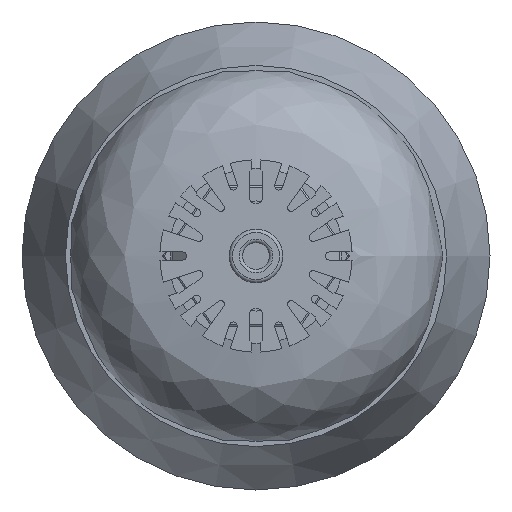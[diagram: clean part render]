
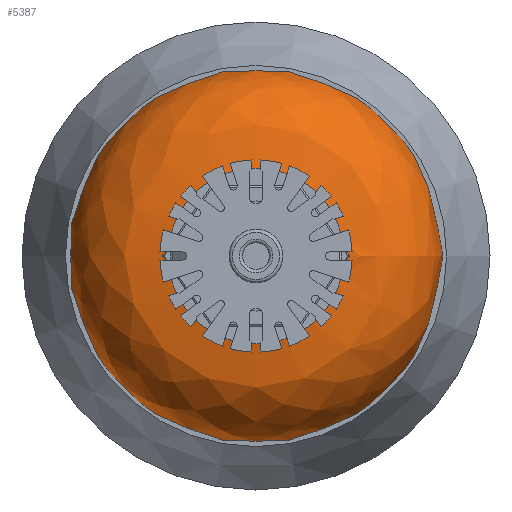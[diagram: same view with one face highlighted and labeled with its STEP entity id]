
A CAD part, front view. The second image highlights one B-rep face of the part: STEP entity #5387.
In plain terms, the highlighted free-form (B-spline) face has degree [2, 2] with [5, 9] control points.
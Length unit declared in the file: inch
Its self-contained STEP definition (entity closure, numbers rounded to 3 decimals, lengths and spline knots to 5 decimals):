
#271=(
BOUNDED_SURFACE()
B_SPLINE_SURFACE(2,2,((#7852,#7853,#7854,#7855,#7856,#7857,#7858,#7859,
#7860),(#7861,#7862,#7863,#7864,#7865,#7866,#7867,#7868,#7869),(#7870,#7871,
#7872,#7873,#7874,#7875,#7876,#7877,#7878),(#7879,#7880,#7881,#7882,#7883,
#7884,#7885,#7886,#7887),(#7888,#7889,#7890,#7891,#7892,#7893,#7894,#7895,
#7896)),.UNSPECIFIED.,.F.,.T.,.F.)
B_SPLINE_SURFACE_WITH_KNOTS((3,2,3),(3,2,2,2,3),(-0.26503,0.67035,
1.60572),(-3.14159,-1.5708,0.,1.5708,
3.14159),.UNSPECIFIED.)
GEOMETRIC_REPRESENTATION_ITEM()
RATIONAL_B_SPLINE_SURFACE(((1.,0.707,1.,0.707,1.,
0.707,1.,0.707,1.),(0.893,0.631,
0.893,0.631,0.893,0.631,
0.893,0.631,0.893),(1.,0.707,
1.,0.707,1.,0.707,1.,0.707,1.),(0.893,
0.631,0.893,0.631,0.893,
0.631,0.893,0.631,0.893),
(1.,0.707,1.,0.707,1.,0.707,1.,0.707,
1.)))
REPRESENTATION_ITEM('')
SURFACE()
);
#393=FACE_OUTER_BOUND('',#703,.T.);
#703=EDGE_LOOP('',(#3372,#3373,#3374,#3375,#3376,#3377));
#1734=CIRCLE('',#5756,1.375);
#1735=CIRCLE('',#5757,1.375);
#1736=CIRCLE('',#5758,0.6575);
#1737=CIRCLE('',#5759,0.6575);
#1738=CIRCLE('',#5760,0.7175);
#2041=VERTEX_POINT('',#7847);
#2042=VERTEX_POINT('',#7848);
#2043=VERTEX_POINT('',#7897);
#2044=VERTEX_POINT('',#7898);
#2554=EDGE_CURVE('',#2041,#2042,#1734,.T.);
#2555=EDGE_CURVE('',#2042,#2041,#1735,.T.);
#2557=EDGE_CURVE('',#2043,#2044,#1736,.T.);
#2558=EDGE_CURVE('',#2044,#2043,#1737,.T.);
#2559=EDGE_CURVE('',#2044,#2042,#1738,.T.);
#3372=ORIENTED_EDGE('',*,*,#2557,.F.);
#3373=ORIENTED_EDGE('',*,*,#2558,.F.);
#3374=ORIENTED_EDGE('',*,*,#2559,.T.);
#3375=ORIENTED_EDGE('',*,*,#2555,.T.);
#3376=ORIENTED_EDGE('',*,*,#2554,.T.);
#3377=ORIENTED_EDGE('',*,*,#2559,.F.);
#5387=ADVANCED_FACE('',(#393),#271,.F.);
#5756=AXIS2_PLACEMENT_3D('',#7849,#6345,#6346);
#5757=AXIS2_PLACEMENT_3D('',#7850,#6347,#6348);
#5758=AXIS2_PLACEMENT_3D('',#7899,#6350,#6351);
#5759=AXIS2_PLACEMENT_3D('',#7900,#6352,#6353);
#5760=AXIS2_PLACEMENT_3D('',#7901,#6354,#6355);
#6345=DIRECTION('center_axis',(0.,-1.,0.));
#6346=DIRECTION('ref_axis',(1.,0.,0.));
#6347=DIRECTION('center_axis',(0.,-1.,0.));
#6348=DIRECTION('ref_axis',(1.,0.,0.));
#6350=DIRECTION('center_axis',(0.,-1.,0.));
#6351=DIRECTION('ref_axis',(1.,0.,0.));
#6352=DIRECTION('center_axis',(0.,-1.,0.));
#6353=DIRECTION('ref_axis',(1.,0.,0.));
#6354=DIRECTION('center_axis',(0.,0.,
1.));
#6355=DIRECTION('ref_axis',(1.,0.,0.));
#7847=CARTESIAN_POINT('',(-1.375,2.405,0.));
#7848=CARTESIAN_POINT('',(1.375,2.405,0.));
#7849=CARTESIAN_POINT('Origin',(0.,2.405,0.));
#7850=CARTESIAN_POINT('Origin',(0.,2.405,0.));
#7852=CARTESIAN_POINT('Ctrl Pts',(1.375,2.405,0.));
#7853=CARTESIAN_POINT('Ctrl Pts',(1.375,2.405,1.375));
#7854=CARTESIAN_POINT('Ctrl Pts',(0.,2.405,1.375));
#7855=CARTESIAN_POINT('Ctrl Pts',(-1.375,2.405,1.375));
#7856=CARTESIAN_POINT('Ctrl Pts',(-1.375,2.405,0.));
#7857=CARTESIAN_POINT('Ctrl Pts',(-1.375,2.405,-1.375));
#7858=CARTESIAN_POINT('Ctrl Pts',(0.,2.405,-1.375));
#7859=CARTESIAN_POINT('Ctrl Pts',(1.375,2.405,-1.375));
#7860=CARTESIAN_POINT('Ctrl Pts',(1.375,2.405,0.));
#7861=CARTESIAN_POINT('Ctrl Pts',(1.46992,2.05527,0.));
#7862=CARTESIAN_POINT('Ctrl Pts',(1.46992,2.05527,1.46992));
#7863=CARTESIAN_POINT('Ctrl Pts',(0.,2.05527,1.46992));
#7864=CARTESIAN_POINT('Ctrl Pts',(-1.46992,2.05527,1.46992));
#7865=CARTESIAN_POINT('Ctrl Pts',(-1.46992,2.05527,0.));
#7866=CARTESIAN_POINT('Ctrl Pts',(-1.46992,2.05527,-1.46992));
#7867=CARTESIAN_POINT('Ctrl Pts',(0.,2.05527,-1.46992));
#7868=CARTESIAN_POINT('Ctrl Pts',(1.46992,2.05527,-1.46992));
#7869=CARTESIAN_POINT('Ctrl Pts',(1.46992,2.05527,0.));
#7870=CARTESIAN_POINT('Ctrl Pts',(1.24479,1.77131,0.));
#7871=CARTESIAN_POINT('Ctrl Pts',(1.24479,1.77131,1.24479));
#7872=CARTESIAN_POINT('Ctrl Pts',(0.,1.77131,
1.24479));
#7873=CARTESIAN_POINT('Ctrl Pts',(-1.24479,1.77131,1.24479));
#7874=CARTESIAN_POINT('Ctrl Pts',(-1.24479,1.77131,0.));
#7875=CARTESIAN_POINT('Ctrl Pts',(-1.24479,1.77131,-1.24479));
#7876=CARTESIAN_POINT('Ctrl Pts',(0.,1.77131,
-1.24479));
#7877=CARTESIAN_POINT('Ctrl Pts',(1.24479,1.77131,-1.24479));
#7878=CARTESIAN_POINT('Ctrl Pts',(1.24479,1.77131,0.));
#7879=CARTESIAN_POINT('Ctrl Pts',(1.01966,1.48735,0.));
#7880=CARTESIAN_POINT('Ctrl Pts',(1.01966,1.48735,1.01966));
#7881=CARTESIAN_POINT('Ctrl Pts',(0.,1.48735,
1.01966));
#7882=CARTESIAN_POINT('Ctrl Pts',(-1.01966,1.48735,1.01966));
#7883=CARTESIAN_POINT('Ctrl Pts',(-1.01966,1.48735,0.));
#7884=CARTESIAN_POINT('Ctrl Pts',(-1.01966,1.48735,-1.01966));
#7885=CARTESIAN_POINT('Ctrl Pts',(0.,1.48735,
-1.01966));
#7886=CARTESIAN_POINT('Ctrl Pts',(1.01966,1.48735,-1.01966));
#7887=CARTESIAN_POINT('Ctrl Pts',(1.01966,1.48735,0.));
#7888=CARTESIAN_POINT('Ctrl Pts',(0.6575,1.5,0.));
#7889=CARTESIAN_POINT('Ctrl Pts',(0.6575,1.5,0.6575));
#7890=CARTESIAN_POINT('Ctrl Pts',(0.,1.5,0.6575));
#7891=CARTESIAN_POINT('Ctrl Pts',(-0.6575,1.5,0.6575));
#7892=CARTESIAN_POINT('Ctrl Pts',(-0.6575,1.5,0.));
#7893=CARTESIAN_POINT('Ctrl Pts',(-0.6575,1.5,-0.6575));
#7894=CARTESIAN_POINT('Ctrl Pts',(0.,1.5,-0.6575));
#7895=CARTESIAN_POINT('Ctrl Pts',(0.6575,1.5,-0.6575));
#7896=CARTESIAN_POINT('Ctrl Pts',(0.6575,1.5,0.));
#7897=CARTESIAN_POINT('',(-0.6575,1.5,0.));
#7898=CARTESIAN_POINT('',(0.6575,1.5,0.));
#7899=CARTESIAN_POINT('Origin',(0.,1.5,0.));
#7900=CARTESIAN_POINT('Origin',(0.,1.5,0.));
#7901=CARTESIAN_POINT('Origin',(0.68255,2.21706,0.));
